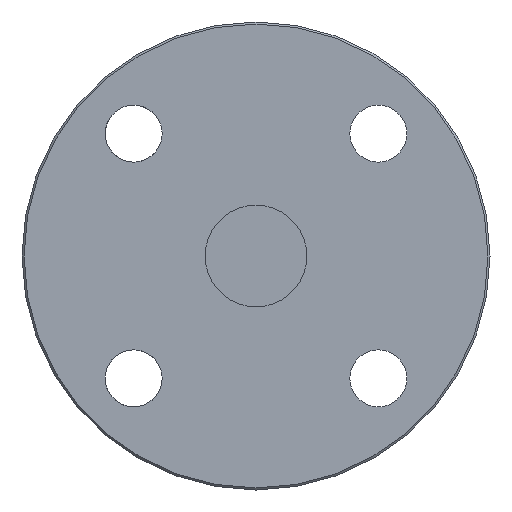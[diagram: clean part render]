
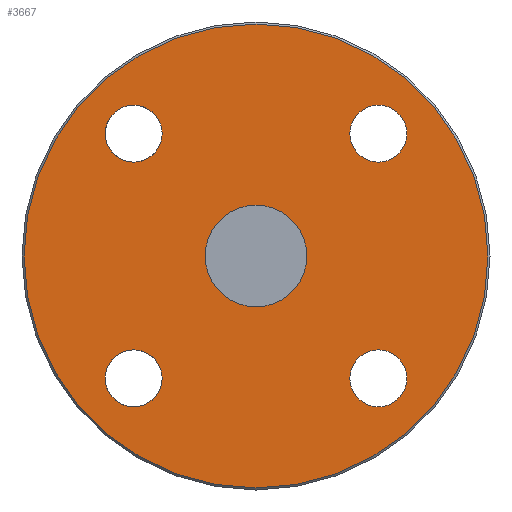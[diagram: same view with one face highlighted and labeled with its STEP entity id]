
A CAD part, left-side view. The second image highlights one B-rep face of the part: STEP entity #3667.
In plain terms, the highlighted planar face has unit normal (-1, 0, 0).
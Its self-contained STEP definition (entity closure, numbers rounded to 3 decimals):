
#130=CIRCLE('',#3911,57.);
#131=CIRCLE('',#3913,12.5);
#132=CIRCLE('',#3914,7.);
#133=CIRCLE('',#3915,7.);
#134=CIRCLE('',#3916,7.);
#135=CIRCLE('',#3917,7.);
#230=FACE_BOUND('',#627,.T.);
#231=FACE_BOUND('',#628,.T.);
#232=FACE_BOUND('',#629,.T.);
#233=FACE_BOUND('',#630,.T.);
#234=FACE_BOUND('',#631,.T.);
#400=FACE_OUTER_BOUND('',#626,.T.);
#626=EDGE_LOOP('',(#3225));
#627=EDGE_LOOP('',(#3226));
#628=EDGE_LOOP('',(#3227));
#629=EDGE_LOOP('',(#3228));
#630=EDGE_LOOP('',(#3229));
#631=EDGE_LOOP('',(#3230));
#1768=VERTEX_POINT('',#6461);
#1769=VERTEX_POINT('',#6465);
#1770=VERTEX_POINT('',#6467);
#1771=VERTEX_POINT('',#6469);
#1772=VERTEX_POINT('',#6471);
#1773=VERTEX_POINT('',#6473);
#2264=EDGE_CURVE('',#1768,#1768,#130,.T.);
#2265=EDGE_CURVE('',#1769,#1769,#131,.T.);
#2266=EDGE_CURVE('',#1770,#1770,#132,.T.);
#2267=EDGE_CURVE('',#1771,#1771,#133,.T.);
#2268=EDGE_CURVE('',#1772,#1772,#134,.T.);
#2269=EDGE_CURVE('',#1773,#1773,#135,.T.);
#3225=ORIENTED_EDGE('',*,*,#2264,.F.);
#3226=ORIENTED_EDGE('',*,*,#2265,.T.);
#3227=ORIENTED_EDGE('',*,*,#2266,.T.);
#3228=ORIENTED_EDGE('',*,*,#2267,.T.);
#3229=ORIENTED_EDGE('',*,*,#2268,.T.);
#3230=ORIENTED_EDGE('',*,*,#2269,.T.);
#3479=PLANE('',#3912);
#3667=ADVANCED_FACE('',(#400,#230,#231,#232,#233,#234),#3479,.T.);
#3911=AXIS2_PLACEMENT_3D('',#6463,#4677,#4678);
#3912=AXIS2_PLACEMENT_3D('',#6464,#4679,#4680);
#3913=AXIS2_PLACEMENT_3D('',#6466,#4681,#4682);
#3914=AXIS2_PLACEMENT_3D('',#6468,#4683,#4684);
#3915=AXIS2_PLACEMENT_3D('',#6470,#4685,#4686);
#3916=AXIS2_PLACEMENT_3D('',#6472,#4687,#4688);
#3917=AXIS2_PLACEMENT_3D('',#6474,#4689,#4690);
#4677=DIRECTION('center_axis',(1.,0.,0.));
#4678=DIRECTION('ref_axis',(0.,-1.,0.));
#4679=DIRECTION('center_axis',(-1.,0.,0.));
#4680=DIRECTION('ref_axis',(0.,0.,1.));
#4681=DIRECTION('center_axis',(1.,0.,0.));
#4682=DIRECTION('ref_axis',(0.,0.,-1.));
#4683=DIRECTION('center_axis',(1.,0.,0.));
#4684=DIRECTION('ref_axis',(0.,0.,-1.));
#4685=DIRECTION('center_axis',(1.,0.,0.));
#4686=DIRECTION('ref_axis',(0.,0.,-1.));
#4687=DIRECTION('center_axis',(1.,0.,0.));
#4688=DIRECTION('ref_axis',(0.,0.,-1.));
#4689=DIRECTION('center_axis',(1.,0.,0.));
#4690=DIRECTION('ref_axis',(0.,0.,-1.));
#6461=CARTESIAN_POINT('',(-35.,57.,0.));
#6463=CARTESIAN_POINT('Origin',(-35.,0.,0.));
#6464=CARTESIAN_POINT('Origin',(-35.,28.75,0.));
#6465=CARTESIAN_POINT('',(-35.,0.,12.5));
#6466=CARTESIAN_POINT('Origin',(-35.,0.,0.));
#6467=CARTESIAN_POINT('',(-35.,30.052,37.052));
#6468=CARTESIAN_POINT('Origin',(-35.,30.052,30.052));
#6469=CARTESIAN_POINT('',(-35.,-30.052,37.052));
#6470=CARTESIAN_POINT('Origin',(-35.,-30.052,30.052));
#6471=CARTESIAN_POINT('',(-35.,-30.052,-23.052));
#6472=CARTESIAN_POINT('Origin',(-35.,-30.052,-30.052));
#6473=CARTESIAN_POINT('',(-35.,30.052,-23.052));
#6474=CARTESIAN_POINT('Origin',(-35.,30.052,-30.052));
